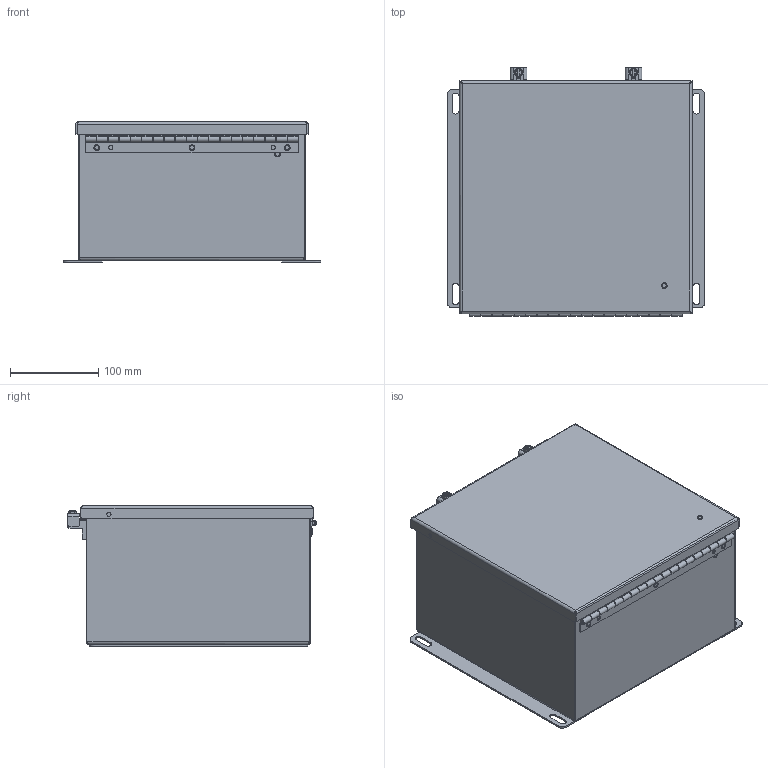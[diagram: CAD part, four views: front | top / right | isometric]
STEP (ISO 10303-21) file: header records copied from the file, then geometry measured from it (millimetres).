
FILE_DESCRIPTION((''),'2;1');
FILE_NAME('MODEL-330_ASM','2025-07-02T09:04:37',('johnh'),('SAGINAW CONTROL & ENGINEERING'),'CREO PARAMETRIC BY PTC INC, 2021284','CREO PARAMETRIC BY PTC INC, 2021284','');
FILE_SCHEMA(('AUTOMOTIVE_DESIGN { 1 0 10303 214 1 1 1 1 }'));
Length unit declared in the file: inch
Products named in the file (22): MODEL-330-BDY; MODEL-330-DR; 100063; 100009; 125826-BASE; 125826-PEM-STUD; 125826-CLAMP; 125826-BOLT; 125826_ASM; 100897; 102179; 122255; MODEL-330-HNG-PN; MODEL-330-HNG-BX; MODEL-330-HNG-DR; 100062; MODEL-330-HNG_ASM; MODEL-330-GSKT; CH-ELJ_SUBPANEL; 102479; CH-ELJ_SUBPANEL-SUBASSEMBLY_ASM; MODEL-330_ASM
Assembly tree (36 placements, depth 3):
  MODEL-330_ASM
    MODEL-330-BDY
    MODEL-330-DR
    100063  x2
    100009  x4
    125826_ASM  x2
      125826-BASE
      125826-PEM-STUD
      125826-CLAMP
      125826-BOLT
    100897  x5
    102179  x2
    122255
    MODEL-330-HNG_ASM
      MODEL-330-HNG-PN
      MODEL-330-HNG-BX
      MODEL-330-HNG-DR
      100062  x3
    MODEL-330-GSKT
    CH-ELJ_SUBPANEL-SUBASSEMBLY_ASM
      CH-ELJ_SUBPANEL
      102479  x4
Bounding box: 292.1 x 282.05 x 159.13 mm (x, y, z)
Volume: 676204 mm3; surface area: 832564.1 mm2
Topology: 35 solids, 35 shells, 1807 faces, 4456 edges, 2672 vertices
Faces by surface type: plane 779, cylinder 598, bspline 214, torus 110, sphere 56, cone 50
Entity records: 55055 total; most frequent: CARTESIAN_POINT 18651, ORIENTED_EDGE 5170, DIRECTION 5069, PRESENTATION_STYLE_ASSIGNMENT 2602, STYLED_ITEM 2602, CURVE_STYLE 2585, EDGE_CURVE 2585, AXIS2_PLACEMENT_3D 1768
